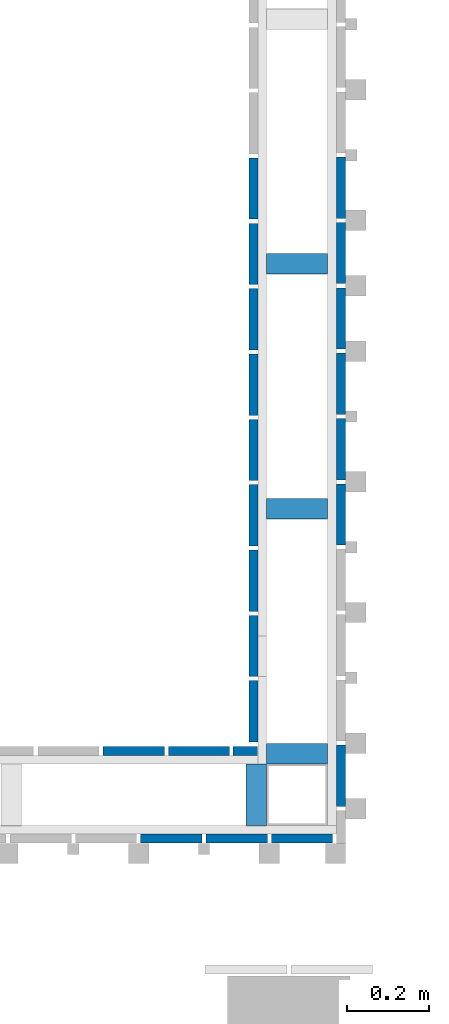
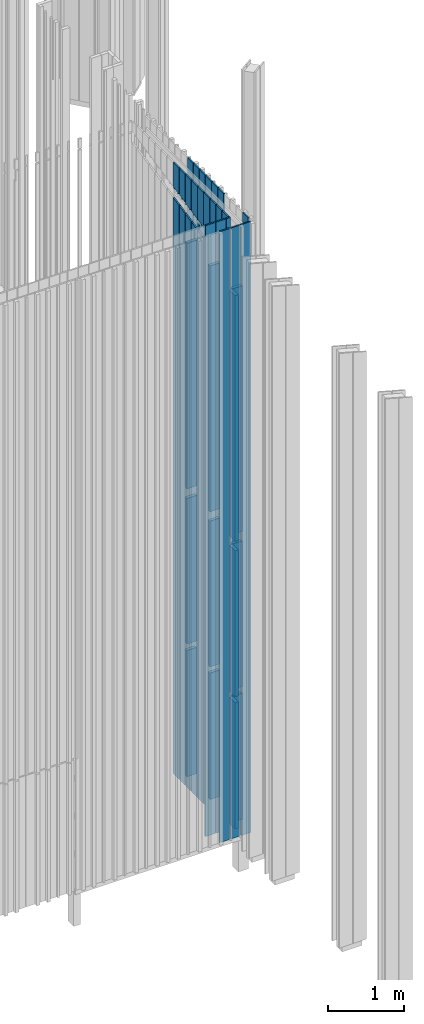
# One storey, part 163 of 390: 34 walls.
"""IFC2X3 building model written with IfcOpenShell, lengths in millimetres."""

from ifc_helpers import new_model, entity, si_unit, converted_unit, derived_unit, money_unit, direction, frame, origin_with_axes, place, context, subcontext, project, spatial, faceted_brep, material, material_list, type_object, element, save


model = new_model("IFC2X3")

# Units and contexts
model_context = context("Model", 3, precision=1e-05, world=origin_with_axes(), true_north=direction((0.0, 1.0)))
body_context = subcontext(model_context, "Body", "Model", "MODEL_VIEW")
ifc_project = project(units=[si_unit("LENGTHUNIT", "METRE", prefix="MILLI"), si_unit("AREAUNIT", "SQUARE_METRE"), si_unit("VOLUMEUNIT", "CUBIC_METRE"), converted_unit("PLANEANGLEUNIT", "DEGREE", entity("IfcPlaneAngleMeasure", 0.0174532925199), si_unit("PLANEANGLEUNIT", "RADIAN"), dimensions=[0, 0, 0, 0, 0, 0, 0]), si_unit("SOLIDANGLEUNIT", "STERADIAN"), money_unit("EUR"), converted_unit("TIMEUNIT", "Year", entity("IfcTimeMeasure", 31556926.0), si_unit("TIMEUNIT", "SECOND"), dimensions=[0, 0, 1, 0, 0, 0, 0]), si_unit("MASSUNIT", "GRAM", prefix="KILO"), si_unit("THERMODYNAMICTEMPERATUREUNIT", "DEGREE_CELSIUS"), si_unit("LUMINOUSINTENSITYUNIT", "LUMEN"), si_unit("ENERGYUNIT", "JOULE", prefix="MEGA"), derived_unit("THERMALCONDUCTANCEUNIT", [(si_unit("POWERUNIT", "WATT"), 1), (si_unit("LENGTHUNIT", "METRE"), -1), (si_unit("THERMODYNAMICTEMPERATUREUNIT", "KELVIN"), -1)]), derived_unit("SPECIFICHEATCAPACITYUNIT", [(si_unit("ENERGYUNIT", "JOULE"), 1), (si_unit("MASSUNIT", "GRAM", prefix="KILO"), -1), (si_unit("THERMODYNAMICTEMPERATUREUNIT", "KELVIN"), -1)]), derived_unit("MASSDENSITYUNIT", [(si_unit("MASSUNIT", "GRAM", prefix="KILO"), 1), (si_unit("VOLUMEUNIT", "CUBIC_METRE"), -1)])], contexts=[model_context])

# Site, building, storey
site_placement = place(None, origin_with_axes())
site = spatial("IfcSite", under=ifc_project, at=site_placement, Name="Site", CompositionType="ELEMENT")
building_placement = place(site_placement, origin_with_axes())
building = spatial("IfcBuilding", under=site, at=building_placement, Name="Building", CompositionType="ELEMENT")
storey_placement = place(building_placement, origin_with_axes())
storey = spatial("IfcBuildingStorey", under=building, at=storey_placement, Name="1 korrus", CompositionType="ELEMENT", Elevation=0.0)

# Walls
ifc_material = material(Name="Site specified")
ifc_material_list = material_list([ifc_material, ifc_material])
wall_type = type_object("IfcWallType", Name="Puitfassaadi ribistik", PredefinedType="NOTDEFINED")
wall_1_placement = place(storey_placement, frame((139538.000037, 43283.0000099, 100.000000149), z_axis=(0.0, 0.0, 1.0), x_axis=(0.0, 1.0, 0.0)))
element("IfcWall", 1, at=wall_1_placement, inside=storey, type_object=wall_type, material=ifc_material_list, Name="Site specified", context=body_context, shape_type="Brep", body=[
    faceted_brep([(31.595682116, -11.0000000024, 9199.24028983), (31.5956434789, -11.0000000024, 9177.77131911), (41.3771184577, -11.0000000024, 9179.85044085), (41.3771581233, -11.0000000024, 9201.31940673), (75.0, -11.0000000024, 9208.4661624), (75.0, -11.0000000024, 9764.99999985), (-75.0, -11.0000000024, 9764.99999985), (-75.0, -11.0000000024, 9176.58267815), (-71.1098159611, -11.0000000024, 9177.40956229), (-71.109843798, -11.0000000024, 9155.94054076), (-61.3283688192, -11.0000000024, 9158.01966251), (-61.3283399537, -11.0000000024, 9179.4886792), (31.5956821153, 11.0000000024, 9199.24028983), (31.5956434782, 11.0000000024, 9177.77131911), (41.377118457, 11.0000000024, 9179.85044085), (41.3771581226, 11.0000000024, 9201.31940673), (75.0, 11.0000000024, 9208.4661624), (75.0, 11.0000000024, 9764.99999985), (-75.0, 11.0000000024, 9764.99999985), (-75.0, 11.0000000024, 9176.58267815), (-71.1098159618, 11.0000000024, 9177.40956229), (-71.1098437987, 11.0000000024, 9155.94054076), (-61.3283688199, 11.0000000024, 9158.01966251), (-61.3283399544, 11.0000000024, 9179.4886792)], [[[0, 1, 2, 3, 4, 5, 6, 7, 8, 9, 10, 11]], [[12, 13, 1, 0]], [[13, 14, 2, 1]], [[3, 2, 14, 15]], [[15, 16, 4, 3]], [[5, 4, 16, 17]], [[17, 18, 6, 5]], [[18, 19, 7, 6]], [[20, 8, 7, 19]], [[20, 21, 9, 8]], [[21, 22, 10, 9]], [[11, 10, 22, 23]], [[12, 0, 11, 23]], [[15, 14, 13, 12, 23, 22, 21, 20, 19, 18, 17, 16]]]),
    faceted_brep([(75.0, 11.0000000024, 0.0), (75.0, 11.0000000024, 9033.64611698), (75.0, -11.0000000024, 9033.64611698), (75.0, -11.0000000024, 0.0), (-75.0, 11.0000000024, 0.0), (-75.0, 11.0000000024, 9001.76255517), (-75.0, -11.0000000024, 9001.76255517), (-75.0, -11.0000000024, 0.0)], [[[0, 1, 2, 3]], [[4, 5, 1, 0]], [[5, 6, 2, 1]], [[3, 2, 6, 7]], [[0, 3, 7, 4]], [[7, 6, 5, 4]]]),
])
for number, where, z_axis, x_axis, name in (
    (2, (139752.000037, 43605.0000099, 100.000000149), (0.0, 0.0, 1.0), (0.0, 1.0, 0.0), "Site specified"),
    (3, (139752.000037, 44085.0000099, 100.000000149), (0.0, 0.0, 1.0), (0.0, 1.0, 0.0), "Site specified"),
    (4, (139752.000037, 43925.0000099, 100.000000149), (0.0, 0.0, 1.0), (0.0, 1.0, 0.0), "Site specified"),
    (5, (139752.000037, 43285.0000099, 100.000000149), (0.0, 0.0, 1.0), (0.0, 1.0, 0.0), "Site specified"),
    (6, (139752.000037, 43765.0000099, 100.000000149), (0.0, 0.0, 1.0), (0.0, 1.0, 0.0), "Site specified"),
    (7, (139752.000037, 43445.0000099, 100.000000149), (0.0, 0.0, 1.0), (0.0, 1.0, 0.0), "Site specified"),
    (8, (139752.000037, 42645.0000099, 100.000000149), (0.0, 0.0, 1.0), (0.0, 1.0, 0.0), "Site specified"),
):
    element("IfcWall", number, at=place(storey_placement, frame(where, z_axis=z_axis, x_axis=x_axis)), inside=storey, type_object=wall_type, material=ifc_material, Name=name, context=body_context, shape_type="Brep", body=[
        faceted_brep([(75.0, -11.0000000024, 9764.99999985), (-75.0, -11.0000000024, 9764.99999985), (-75.0, -11.0000000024, 0.0), (75.0, -11.0000000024, 0.0), (75.0, 11.0000000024, 9764.99999985), (-75.0, 11.0000000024, 9764.99999985), (-75.0, 11.0000000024, 0.0), (75.0, 11.0000000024, 0.0)], [[[0, 1, 2, 3]], [[4, 5, 1, 0]], [[1, 5, 6, 2]], [[7, 3, 2, 6]], [[4, 0, 3, 7]], [[5, 4, 7, 6]]]),
    ])
wall_2_placement = place(storey_placement, frame((139538.000037, 44083.0000099, 100.000000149), z_axis=(0.0, 0.0, 1.0), x_axis=(0.0, 1.0, 0.0)))
element("IfcWall", 9, at=wall_2_placement, inside=storey, type_object=wall_type, material=ifc_material_list, Name="Site specified", context=body_context, shape_type="Brep", body=[
    faceted_brep([(53.2396667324, -11.0000000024, 9373.88611011), (53.2395416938, -11.0000000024, 9352.41754588), (63.0210166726, -11.0000000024, 9354.49666763), (63.0211427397, -11.0000000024, 9375.96522702), (75.0, -11.0000000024, 9378.51141173), (75.0, -11.0000000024, 9764.99999985), (-75.0, -11.0000000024, 9764.99999985), (-75.0, -11.0000000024, 9346.62792748), (-49.4658313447, -11.0000000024, 9352.05538258), (-49.465945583, -11.0000000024, 9330.58676753), (-39.6844706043, -11.0000000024, 9332.66588928), (-39.6843553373, -11.0000000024, 9354.13449948), (53.2396667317, 11.0000000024, 9373.88611011), (53.2395416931, 11.0000000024, 9352.41754588), (63.0210166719, 11.0000000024, 9354.49666763), (63.021142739, 11.0000000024, 9375.96522702), (75.0, 11.0000000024, 9378.51141173), (75.0, 11.0000000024, 9764.99999985), (-75.0, 11.0000000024, 9764.99999985), (-75.0, 11.0000000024, 9346.62792748), (-49.4658313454, 11.0000000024, 9352.05538258), (-49.4659455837, 11.0000000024, 9330.58676753), (-39.684470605, 11.0000000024, 9332.66588928), (-39.684355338, 11.0000000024, 9354.13449948)], [[[0, 1, 2, 3, 4, 5, 6, 7, 8, 9, 10, 11]], [[12, 13, 1, 0]], [[13, 14, 2, 1]], [[3, 2, 14, 15]], [[15, 16, 4, 3]], [[5, 4, 16, 17]], [[17, 18, 6, 5]], [[18, 19, 7, 6]], [[20, 8, 7, 19]], [[20, 21, 9, 8]], [[21, 22, 10, 9]], [[11, 10, 22, 23]], [[12, 0, 11, 23]], [[15, 14, 13, 12, 23, 22, 21, 20, 19, 18, 17, 16]]]),
    faceted_brep([(75.0, 11.0000000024, 0.0), (75.0, 11.0000000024, 9203.69177997), (75.0, -11.0000000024, 9203.69177997), (75.0, -11.0000000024, 0.0), (-75.0, 11.0000000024, 0.0), (-75.0, 11.0000000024, 9171.80821816), (-75.0, -11.0000000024, 9171.80821816), (-75.0, -11.0000000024, 0.0)], [[[0, 1, 2, 3]], [[4, 5, 1, 0]], [[5, 6, 2, 1]], [[3, 2, 6, 7]], [[0, 3, 7, 4]], [[7, 6, 5, 4]]]),
])
wall_3_placement = place(storey_placement, frame((139538.000037, 43923.0000099, 100.000000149), z_axis=(0.0, 0.0, 1.0), x_axis=(0.0, 1.0, 0.0)))
element("IfcWall", 10, at=wall_3_placement, inside=storey, type_object=wall_type, material=ifc_material_list, Name="Site specified", context=body_context, shape_type="Brep", body=[
    faceted_brep([(7.82867057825, -11.0000000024, 9330.22465504), (7.82856714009, -11.0000000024, 9308.75598919), (17.6100421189, -11.0000000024, 9310.83511093), (17.6101465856, -11.0000000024, 9332.30377195), (75.0, -11.0000000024, 9344.50236187), (75.0, -11.0000000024, 9764.99999985), (-75.0, -11.0000000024, 9764.99999985), (-75.0, -11.0000000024, 9312.61887761), (7.82867057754, 11.0000000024, 9330.22465504), (7.82856713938, 11.0000000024, 9308.75598919), (17.6100421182, 11.0000000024, 9310.83511093), (17.6101465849, 11.0000000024, 9332.30377195), (75.0, 11.0000000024, 9344.50236187), (75.0, 11.0000000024, 9764.99999985), (-75.0, 11.0000000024, 9764.99999985), (-75.0, 11.0000000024, 9312.61887761)], [[[0, 1, 2, 3, 4, 5, 6, 7]], [[8, 9, 1, 0]], [[9, 10, 2, 1]], [[3, 2, 10, 11]], [[11, 12, 4, 3]], [[5, 4, 12, 13]], [[13, 14, 6, 5]], [[14, 15, 7, 6]], [[8, 0, 7, 15]], [[11, 10, 9, 8, 15, 14, 13, 12]]]),
    faceted_brep([(75.0, 11.0000000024, 0.0), (75.0, 11.0000000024, 9169.68264737), (75.0, -11.0000000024, 9169.68264737), (75.0, -11.0000000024, 0.0), (-75.0, 11.0000000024, 0.0), (-75.0, 11.0000000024, 9137.79908556), (-75.0, -11.0000000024, 9137.79908556), (-75.0, -11.0000000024, 0.0)], [[[0, 1, 2, 3]], [[4, 5, 1, 0]], [[5, 6, 2, 1]], [[3, 2, 6, 7]], [[0, 3, 7, 4]], [[7, 6, 5, 4]]]),
])
wall_4_placement = place(storey_placement, frame((139645.000037, 42699.0000099, 200.000000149), z_axis=(0.0, 0.0, 1.0), x_axis=(0.0, 1.0, 0.0)))
element("IfcWall", 11, at=wall_4_placement, inside=storey, type_object=wall_type, material=ifc_material, Name="Site specified", context=body_context, shape_type="Brep", body=[
    faceted_brep([(25.0, -74.9999999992, 2019.99999987), (-25.0, -74.9999999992, 2019.99999987), (-25.0, -74.9999999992, 0.0), (25.0, -74.9999999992, 0.0), (25.0, 74.9999999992, 2019.99999987), (-25.0, 74.9999999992, 2019.99999987), (-25.0, 74.9999999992, 0.0), (25.0, 74.9999999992, 0.0)], [[[0, 1, 2, 3]], [[4, 5, 1, 0]], [[1, 5, 6, 2]], [[7, 3, 2, 6]], [[4, 0, 3, 7]], [[5, 4, 7, 6]]]),
])
wall_5_placement = place(storey_placement, frame((139645.000037, 42699.0000099, 2320.00000001), z_axis=(0.0, 0.0, 1.0), x_axis=(0.0, 1.0, 0.0)))
element("IfcWall", 12, at=wall_5_placement, inside=storey, type_object=wall_type, material=ifc_material, Name="Site specified", context=body_context, shape_type="Brep", body=[
    faceted_brep([(25.0, -74.9999999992, 2330.0), (-25.0, -74.9999999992, 2330.0), (-25.0, -74.9999999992, 0.0), (25.0, -74.9999999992, 0.0), (25.0, 74.9999999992, 2330.0), (-25.0, 74.9999999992, 2330.0), (-25.0, 74.9999999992, 0.0), (25.0, 74.9999999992, 0.0)], [[[0, 1, 2, 3]], [[4, 5, 1, 0]], [[1, 5, 6, 2]], [[7, 3, 2, 6]], [[4, 0, 3, 7]], [[5, 4, 7, 6]]]),
])
wall_6_placement = place(storey_placement, frame((139645.000037, 42699.0000099, 4800.00000001), z_axis=(0.0, 0.0, 1.0), x_axis=(0.0, 1.0, 0.0)))
element("IfcWall", 13, at=wall_6_placement, inside=storey, type_object=wall_type, material=ifc_material, Name="Site specified", context=body_context, shape_type="Brep", body=[
    faceted_brep([(25.0, -74.9999999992, 3927.99999761), (-25.0, -74.9999999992, 3927.99999761), (-25.0, -74.9999999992, 0.0), (25.0, -74.9999999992, 0.0), (25.0, 74.9999999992, 3927.99999761), (-25.0, 74.9999999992, 3927.99999761), (-25.0, 74.9999999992, 0.0), (25.0, 74.9999999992, 0.0)], [[[0, 1, 2, 3]], [[4, 5, 1, 0]], [[1, 5, 6, 2]], [[7, 3, 2, 6]], [[4, 0, 3, 7]], [[5, 4, 7, 6]]]),
])
wall_7_placement = place(storey_placement, frame((139645.000037, 43299.0000099, 200.000000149), z_axis=(0.0, 0.0, 1.0), x_axis=(0.0, 1.0, 0.0)))
element("IfcWall", 14, at=wall_7_placement, inside=storey, type_object=wall_type, material=ifc_material, Name="Site specified", context=body_context, shape_type="Brep", body=[
    faceted_brep([(25.0, -74.9999999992, 2019.99999987), (-25.0, -74.9999999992, 2019.99999987), (-25.0, -74.9999999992, 0.0), (25.0, -74.9999999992, 0.0), (25.0, 74.9999999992, 2019.99999987), (-25.0, 74.9999999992, 2019.99999987), (-25.0, 74.9999999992, 0.0), (25.0, 74.9999999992, 0.0)], [[[0, 1, 2, 3]], [[4, 5, 1, 0]], [[1, 5, 6, 2]], [[7, 3, 2, 6]], [[4, 0, 3, 7]], [[5, 4, 7, 6]]]),
])
wall_8_placement = place(storey_placement, frame((139645.000037, 43299.0000099, 2320.00000001), z_axis=(0.0, 0.0, 1.0), x_axis=(0.0, 1.0, 0.0)))
element("IfcWall", 15, at=wall_8_placement, inside=storey, type_object=wall_type, material=ifc_material, Name="Site specified", context=body_context, shape_type="Brep", body=[
    faceted_brep([(25.0, -74.9999999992, 2330.0), (-25.0, -74.9999999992, 2330.0), (-25.0, -74.9999999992, 0.0), (25.0, -74.9999999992, 0.0), (25.0, 74.9999999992, 2330.0), (-25.0, 74.9999999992, 2330.0), (-25.0, 74.9999999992, 0.0), (25.0, 74.9999999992, 0.0)], [[[0, 1, 2, 3]], [[4, 5, 1, 0]], [[1, 5, 6, 2]], [[7, 3, 2, 6]], [[4, 0, 3, 7]], [[5, 4, 7, 6]]]),
])
wall_9_placement = place(storey_placement, frame((139645.000037, 43299.0000099, 4800.00000001), z_axis=(0.0, 0.0, 1.0), x_axis=(0.0, 1.0, 0.0)))
element("IfcWall", 16, at=wall_9_placement, inside=storey, type_object=wall_type, material=ifc_material, Name="Site specified", context=body_context, shape_type="Brep", body=[
    faceted_brep([(25.0, -74.9999999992, 3927.99999761), (-25.0, -74.9999999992, 3927.99999761), (-25.0, -74.9999999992, 0.0), (25.0, -74.9999999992, 0.0), (25.0, 74.9999999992, 3927.99999761), (-25.0, 74.9999999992, 3927.99999761), (-25.0, 74.9999999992, 0.0), (25.0, 74.9999999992, 0.0)], [[[0, 1, 2, 3]], [[4, 5, 1, 0]], [[1, 5, 6, 2]], [[7, 3, 2, 6]], [[4, 0, 3, 7]], [[5, 4, 7, 6]]]),
])
wall_10_placement = place(storey_placement, frame((139645.000037, 43899.0000099, 200.000000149), z_axis=(0.0, 0.0, 1.0), x_axis=(0.0, 1.0, 0.0)))
element("IfcWall", 17, at=wall_10_placement, inside=storey, type_object=wall_type, material=ifc_material, Name="Site specified", context=body_context, shape_type="Brep", body=[
    faceted_brep([(25.0, -74.9999999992, 2019.99999987), (-25.0, -74.9999999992, 2019.99999987), (-25.0, -74.9999999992, 0.0), (25.0, -74.9999999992, 0.0), (25.0, 74.9999999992, 2019.99999987), (-25.0, 74.9999999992, 2019.99999987), (-25.0, 74.9999999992, 0.0), (25.0, 74.9999999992, 0.0)], [[[0, 1, 2, 3]], [[4, 5, 1, 0]], [[1, 5, 6, 2]], [[7, 3, 2, 6]], [[4, 0, 3, 7]], [[5, 4, 7, 6]]]),
])
wall_11_placement = place(storey_placement, frame((139645.000037, 43899.0000099, 2320.00000001), z_axis=(0.0, 0.0, 1.0), x_axis=(0.0, 1.0, 0.0)))
element("IfcWall", 18, at=wall_11_placement, inside=storey, type_object=wall_type, material=ifc_material, Name="Site specified", context=body_context, shape_type="Brep", body=[
    faceted_brep([(25.0, -74.9999999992, 2330.0), (-25.0, -74.9999999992, 2330.0), (-25.0, -74.9999999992, 0.0), (25.0, -74.9999999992, 0.0), (25.0, 74.9999999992, 2330.0), (-25.0, 74.9999999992, 2330.0), (-25.0, 74.9999999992, 0.0), (25.0, 74.9999999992, 0.0)], [[[0, 1, 2, 3]], [[4, 5, 1, 0]], [[1, 5, 6, 2]], [[7, 3, 2, 6]], [[4, 0, 3, 7]], [[5, 4, 7, 6]]]),
])
wall_12_placement = place(storey_placement, frame((139645.000037, 43899.0000099, 4800.00000001), z_axis=(0.0, 0.0, 1.0), x_axis=(0.0, 1.0, 0.0)))
element("IfcWall", 19, at=wall_12_placement, inside=storey, type_object=wall_type, material=ifc_material, Name="Site specified", context=body_context, shape_type="Brep", body=[
    faceted_brep([(25.0, -74.9999999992, 3927.99999761), (-25.0, -74.9999999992, 3927.99999761), (-25.0, -74.9999999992, 0.0), (25.0, -74.9999999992, 0.0), (25.0, 74.9999999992, 3927.99999761), (-25.0, 74.9999999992, 3927.99999761), (-25.0, 74.9999999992, 0.0), (25.0, 74.9999999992, 0.0)], [[[0, 1, 2, 3]], [[4, 5, 1, 0]], [[1, 5, 6, 2]], [[7, 3, 2, 6]], [[4, 0, 3, 7]], [[5, 4, 7, 6]]]),
])
wall_13_placement = place(storey_placement, frame((139518.000037, 42706.0000102, 100.000000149), z_axis=(0.0, 0.0, 1.0), x_axis=(-1.0, 0.0, 0.0)))
element("IfcWall", 20, at=wall_13_placement, inside=storey, type_object=wall_type, material=ifc_material, Name="Site specified", context=body_context, shape_type="Brep", body=[
    faceted_brep([(29.9999999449, -11.0000000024, 9764.99999985), (-29.9999999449, -11.0000000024, 9764.99999985), (-29.9999999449, -11.0000000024, 0.0), (29.9999999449, -11.0000000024, 0.0), (29.9999999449, 11.0000000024, 9764.99999985), (-29.9999999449, 11.0000000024, 9764.99999985), (-29.9999999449, 11.0000000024, 0.0), (29.9999999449, 11.0000000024, 0.0)], [[[0, 1, 2, 3]], [[4, 5, 1, 0]], [[1, 5, 6, 2]], [[7, 3, 2, 6]], [[4, 0, 3, 7]], [[5, 4, 7, 6]]]),
])
for number, where, z_axis, x_axis, name in (
    (21, (139245.000037, 42706.0000102, 100.000000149), (0.0, 0.0, 1.0), (-1.0, 0.0, 0.0), "Site specified"),
    (22, (139405.000037, 42706.0000102, 100.000000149), (0.0, 0.0, 1.0), (-1.0, 0.0, 0.0), "Site specified"),
):
    element("IfcWall", number, at=place(storey_placement, frame(where, z_axis=z_axis, x_axis=x_axis)), inside=storey, type_object=wall_type, material=ifc_material, Name=name, context=body_context, shape_type="Brep", body=[
        faceted_brep([(75.0, -11.0000000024, 9764.99999985), (-75.0, -11.0000000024, 9764.99999985), (-75.0, -11.0000000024, 0.0), (75.0, -11.0000000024, 0.0), (75.0, 11.0000000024, 9764.99999985), (-75.0, 11.0000000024, 9764.99999985), (-75.0, 11.0000000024, 0.0), (75.0, 11.0000000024, 0.0)], [[[0, 1, 2, 3]], [[4, 5, 1, 0]], [[1, 5, 6, 2]], [[7, 3, 2, 6]], [[4, 0, 3, 7]], [[5, 4, 7, 6]]]),
    ])
wall_14_placement = place(storey_placement, frame((139538.000037, 42963.0000099, 100.000000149), z_axis=(0.0, 0.0, 1.0), x_axis=(0.0, 1.0, 0.0)))
element("IfcWall", 23, at=wall_14_placement, inside=storey, type_object=wall_type, material=ifc_material_list, Name="Site specified", context=body_context, shape_type="Brep", body=[
    faceted_brep([(43.4791878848, -11.0000000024, 9133.74810722), (43.4791816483, -11.0000000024, 9112.27898407), (53.2606566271, -11.0000000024, 9114.35810581), (53.2606638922, -11.0000000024, 9135.82722413), (75.0, -11.0000000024, 9140.44806266), (75.0, -11.0000000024, 9764.99999985), (-75.0, -11.0000000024, 9764.99999985), (-74.9998110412, -11.0000000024, 9087.09543549), (-49.4448306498, -11.0000000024, 9092.52732747), (-49.4448341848, -11.0000000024, 9113.99649659), (43.4791878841, 11.0000000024, 9133.74810722), (43.4791816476, 11.0000000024, 9112.27898407), (53.2606566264, 11.0000000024, 9114.35810581), (53.2606638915, 11.0000000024, 9135.82722413), (75.0, 11.0000000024, 9140.44806266), (75.0, 11.0000000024, 9764.99999985), (-75.0, 11.0000000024, 9764.99999985), (-74.9998110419, 11.0000000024, 9087.09543549), (-49.4448306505, 11.0000000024, 9092.52732747), (-49.4448341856, 11.0000000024, 9113.99649659)], [[[0, 1, 2, 3, 4, 5, 6, 7, 8, 9]], [[10, 11, 1, 0]], [[11, 12, 2, 1]], [[3, 2, 12, 13]], [[13, 14, 4, 3]], [[5, 4, 14, 15]], [[15, 16, 6, 5]], [[16, 17, 7, 6]], [[17, 18, 8, 7]], [[9, 8, 18, 19]], [[10, 0, 9, 19]], [[13, 12, 11, 10, 19, 18, 17, 16, 15, 14]]]),
    faceted_brep([(75.0, 11.0000000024, 0.0), (75.0, 11.0000000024, 8965.62785178), (75.0, -11.0000000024, 8965.62785178), (75.0, -11.0000000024, 0.0), (25.0000927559, 11.0000000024, 8777.99999748), (25.0000927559, 11.0000000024, 8955.00001756), (-75.0, 11.0000000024, 0.0), (-74.9999072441, 11.0000000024, 8777.99999748), (25.0000927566, -11.0000000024, 8955.00001756), (25.0000927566, -11.0000000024, 8777.99999748), (-74.9999072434, -11.0000000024, 8777.99999748), (-75.0, -11.0000000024, 0.0)], [[[0, 1, 2, 3]], [[4, 5, 1, 0, 6, 7]], [[5, 8, 2, 1]], [[3, 2, 8, 9, 10, 11]], [[0, 3, 11, 6]], [[9, 8, 5, 4]], [[11, 10, 7, 6]], [[10, 9, 4, 7]]]),
])
wall_15_placement = place(storey_placement, frame((139538.000037, 43123.0000099, 100.000000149), z_axis=(0.0, 0.0, 1.0), x_axis=(0.0, 1.0, 0.0)))
element("IfcWall", 24, at=wall_15_placement, inside=storey, type_object=wall_type, material=ifc_material_list, Name="Site specified", context=body_context, shape_type="Brep", body=[
    faceted_brep([(-13.8153140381, -11.0000000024, 9155.57883475), (-13.8153310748, -11.0000000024, 9134.10976241), (-4.03385609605, -11.0000000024, 9136.18888416), (-4.03383803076, -11.0000000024, 9157.65795166), (75.0, -11.0000000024, 9174.45711253), (75.0, -11.0000000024, 9764.99999985), (-75.0, -11.0000000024, 9764.99999985), (-75.0, -11.0000000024, 9142.57362828), (-13.8153140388, 11.0000000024, 9155.57883475), (-13.8153310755, 11.0000000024, 9134.10976241), (-4.03385609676, 11.0000000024, 9136.18888416), (-4.03383803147, 11.0000000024, 9157.65795166), (75.0, 11.0000000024, 9174.45711253), (75.0, 11.0000000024, 9764.99999985), (-75.0, 11.0000000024, 9764.99999985), (-75.0, 11.0000000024, 9142.57362828)], [[[0, 1, 2, 3, 4, 5, 6, 7]], [[8, 9, 1, 0]], [[9, 10, 2, 1]], [[3, 2, 10, 11]], [[11, 12, 4, 3]], [[5, 4, 12, 13]], [[13, 14, 6, 5]], [[14, 15, 7, 6]], [[8, 0, 7, 15]], [[11, 10, 9, 8, 15, 14, 13, 12]]]),
    faceted_brep([(75.0, 11.0000000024, 0.0), (75.0, 11.0000000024, 8999.63698438), (75.0, -11.0000000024, 8999.63698438), (75.0, -11.0000000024, 0.0), (-75.0, 11.0000000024, 0.0), (-75.0, 11.0000000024, 8967.75342257), (-75.0, -11.0000000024, 8967.75342257), (-75.0, -11.0000000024, 0.0)], [[[0, 1, 2, 3]], [[4, 5, 1, 0]], [[5, 6, 2, 1]], [[3, 2, 6, 7]], [[0, 3, 7, 4]], [[7, 6, 5, 4]]]),
])
wall_16_placement = place(storey_placement, frame((139538.000037, 43603.0000099, 100.000000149), z_axis=(0.0, 0.0, 1.0), x_axis=(0.0, 1.0, 0.0)))
element("IfcWall", 25, at=wall_16_placement, inside=storey, type_object=wall_type, material=ifc_material_list, Name="Site specified", context=body_context, shape_type="Brep", body=[
    faceted_brep([(19.7121763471, -11.0000000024, 9264.73247243), (19.7121053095, -11.0000000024, 9243.26365415), (29.4935802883, -11.0000000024, 9245.34277589), (29.4936523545, -11.0000000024, 9266.81158934), (75.0, -11.0000000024, 9276.48426213), (75.0, -11.0000000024, 9764.99999985), (-75.0, -11.0000000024, 9764.99999985), (-75.0, -11.0000000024, 9223.13192572), (-73.2119069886, -11.0000000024, 9223.51199755), (-73.2118457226, -11.0000000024, 9244.98086181), (19.7121763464, 11.0000000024, 9264.73247243), (19.7121053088, 11.0000000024, 9243.26365415), (29.4935802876, 11.0000000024, 9245.34277589), (29.4936523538, 11.0000000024, 9266.81158934), (75.0, 11.0000000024, 9276.48426213), (75.0, 11.0000000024, 9764.99999985), (-75.0, 11.0000000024, 9764.99999985), (-75.0, 11.0000000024, 9223.13192572), (-73.2119069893, 11.0000000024, 9223.51199755), (-73.2118457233, 11.0000000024, 9244.98086181)], [[[0, 1, 2, 3, 4, 5, 6, 7, 8, 9]], [[10, 11, 1, 0]], [[11, 12, 2, 1]], [[3, 2, 12, 13]], [[13, 14, 4, 3]], [[5, 4, 14, 15]], [[15, 16, 6, 5]], [[16, 17, 7, 6]], [[17, 18, 8, 7]], [[9, 8, 18, 19]], [[10, 0, 9, 19]], [[13, 12, 11, 10, 19, 18, 17, 16, 15, 14]]]),
    faceted_brep([(75.0, 11.0000000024, 0.0), (75.0, 11.0000000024, 9101.66438218), (75.0, -11.0000000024, 9101.66438218), (75.0, -11.0000000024, 0.0), (-75.0, 11.0000000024, 0.0), (-75.0, 11.0000000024, 9069.78082036), (-75.0, -11.0000000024, 9069.78082036), (-75.0, -11.0000000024, 0.0)], [[[0, 1, 2, 3]], [[4, 5, 1, 0]], [[5, 6, 2, 1]], [[3, 2, 6, 7]], [[0, 3, 7, 4]], [[7, 6, 5, 4]]]),
])
wall_17_placement = place(storey_placement, frame((139538.000037, 43763.0000099, 100.000000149), z_axis=(0.0, 0.0, 1.0), x_axis=(0.0, 1.0, 0.0)))
element("IfcWall", 26, at=wall_17_placement, inside=storey, type_object=wall_type, material=ifc_material_list, Name="Site specified", context=body_context, shape_type="Brep", body=[
    faceted_brep([(65.1231725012, -11.0000000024, 9308.3939275), (65.1230798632, -11.0000000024, 9286.92521084), (74.904554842, -11.0000000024, 9289.00433259), (74.9046485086, -11.0000000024, 9310.47304441), (75.0, -11.0000000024, 9310.493312), (75.0, -11.0000000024, 9764.99999985), (-75.0, -11.0000000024, 9764.99999985), (-75.0, -11.0000000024, 9278.60982775), (-37.5823255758, -11.0000000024, 9286.56319997), (-37.5824074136, -11.0000000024, 9265.09443249), (-27.8009324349, -11.0000000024, 9267.17355424), (-27.8008495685, -11.0000000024, 9288.64231688), (65.1231725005, 11.0000000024, 9308.3939275), (65.1230798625, 11.0000000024, 9286.92521084), (74.9045548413, 11.0000000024, 9289.00433259), (74.9046485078, 11.0000000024, 9310.47304441), (75.0, 11.0000000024, 9310.493312), (75.0, 11.0000000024, 9764.99999985), (-75.0, 11.0000000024, 9764.99999985), (-75.0, 11.0000000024, 9278.60982775), (-37.5823255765, 11.0000000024, 9286.56319997), (-37.5824074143, 11.0000000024, 9265.09443249), (-27.8009324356, 11.0000000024, 9267.17355424), (-27.8008495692, 11.0000000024, 9288.64231688)], [[[0, 1, 2, 3, 4, 5, 6, 7, 8, 9, 10, 11]], [[12, 13, 1, 0]], [[13, 14, 2, 1]], [[3, 2, 14, 15]], [[15, 16, 4, 3]], [[5, 4, 16, 17]], [[17, 18, 6, 5]], [[18, 19, 7, 6]], [[20, 8, 7, 19]], [[20, 21, 9, 8]], [[21, 22, 10, 9]], [[11, 10, 22, 23]], [[12, 0, 11, 23]], [[15, 14, 13, 12, 23, 22, 21, 20, 19, 18, 17, 16]]]),
    faceted_brep([(75.0, 11.0000000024, 0.0), (75.0, 11.0000000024, 9135.67351477), (75.0, -11.0000000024, 9135.67351477), (75.0, -11.0000000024, 0.0), (-75.0, 11.0000000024, 0.0), (-75.0, 11.0000000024, 9103.78995296), (-75.0, -11.0000000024, 9103.78995296), (-75.0, -11.0000000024, 0.0)], [[[0, 1, 2, 3]], [[4, 5, 1, 0]], [[5, 6, 2, 1]], [[3, 2, 6, 7]], [[0, 3, 7, 4]], [[7, 6, 5, 4]]]),
])
wall_18_placement = place(storey_placement, frame((139538.000037, 43443.0000099, 100.000000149), z_axis=(0.0, 0.0, 1.0), x_axis=(0.0, 1.0, 0.0)))
element("IfcWall", 27, at=wall_18_placement, inside=storey, type_object=wall_type, material=ifc_material_list, Name="Site specified", context=body_context, shape_type="Brep", body=[
    faceted_brep([(-25.698819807, -11.0000000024, 9221.07101736), (-25.6988692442, -11.0000000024, 9199.60209745), (-15.9173942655, -11.0000000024, 9201.6812192), (-15.9173437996, -11.0000000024, 9223.15013427), (75.0, -11.0000000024, 9242.47521226), (75.0, -11.0000000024, 9764.99999985), (-75.0, -11.0000000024, 9764.99999985), (-75.0, -11.0000000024, 9210.59172801), (-25.6988198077, 11.0000000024, 9221.07101736), (-25.6988692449, 11.0000000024, 9199.60209745), (-15.9173942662, 11.0000000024, 9201.6812192), (-15.9173438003, 11.0000000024, 9223.15013427), (75.0, 11.0000000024, 9242.47521226), (75.0, 11.0000000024, 9764.99999985), (-75.0, 11.0000000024, 9764.99999985), (-75.0, 11.0000000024, 9210.59172801)], [[[0, 1, 2, 3, 4, 5, 6, 7]], [[8, 9, 1, 0]], [[9, 10, 2, 1]], [[3, 2, 10, 11]], [[11, 12, 4, 3]], [[5, 4, 12, 13]], [[13, 14, 6, 5]], [[14, 15, 7, 6]], [[8, 0, 7, 15]], [[11, 10, 9, 8, 15, 14, 13, 12]]]),
    faceted_brep([(75.0, 11.0000000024, 0.0), (75.0, 11.0000000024, 9067.65524958), (75.0, -11.0000000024, 9067.65524958), (75.0, -11.0000000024, 0.0), (-75.0, 11.0000000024, 0.0), (-75.0, 11.0000000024, 9035.77168776), (-75.0, -11.0000000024, 9035.77168776), (-75.0, -11.0000000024, 0.0)], [[[0, 1, 2, 3]], [[4, 5, 1, 0]], [[5, 6, 2, 1]], [[3, 2, 6, 7]], [[0, 3, 7, 4]], [[7, 6, 5, 4]]]),
])
wall_19_placement = place(storey_placement, frame((139538.000037, 42803.0000099, 100.000000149), z_axis=(0.0, 0.0, 1.0), x_axis=(0.0, 1.0, 0.0)))
element("IfcWall", 28, at=wall_19_placement, inside=storey, type_object=wall_type, material=ifc_material, Name="Site specified", context=body_context, shape_type="Brep", body=[
    faceted_brep([(75.0, -11.0000000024, 9764.99999985), (-75.0, -11.0000000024, 9764.99999985), (-75.0, -11.0000000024, 0.0), (75.0, -11.0000000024, 0.0), (75.0, 11.0000000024, 9764.99999985), (-75.0, 11.0000000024, 9764.99999985), (-75.0, 11.0000000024, 0.0), (75.0, 11.0000000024, 0.0)], [[[0, 1, 2, 3]], [[4, 5, 1, 0]], [[1, 5, 6, 2]], [[7, 3, 2, 6]], [[4, 0, 3, 7]], [[5, 4, 7, 6]]]),
])
wall_20_placement = place(storey_placement, frame((139545.000037, 42599.0000099, 4800.00000001), z_axis=(0.0, 0.0, 1.0), x_axis=(-1.0, 0.0, 0.0)))
element("IfcWall", 29, at=wall_20_placement, inside=storey, type_object=wall_type, material=ifc_material, Name="Site specified", context=body_context, shape_type="Brep", body=[
    faceted_brep([(-24.9999999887, -74.9999999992, 15.0000030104), (-24.999999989, -64.5000003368, 15.0000030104), (-24.999999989, -64.5000003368, 110.00000301), (-24.9999999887, -74.9999999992, 110.00000301), (-25.0, -74.9999999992, 3927.99999761), (-25.0, 74.9999999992, 3927.99999761), (-25.0, 74.9999999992, 0.0), (-25.0, -74.9999999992, 0.0), (-3.99999998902, -64.5000003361, 15.0000030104), (-3.99999998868, -74.9999999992, 15.0000030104), (-3.99999998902, -64.5000003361, 110.00000301), (-3.99999998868, -74.9999999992, 110.00000301), (25.0, -74.9999999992, 0.0), (25.0, -74.9999999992, 3927.99999761), (25.0, 74.9999999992, 3927.99999761), (25.0, 74.9999999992, 0.0)], [[[0, 1, 2, 3, 4, 5, 6, 7]], [[8, 1, 0, 9]], [[10, 2, 1, 8]], [[10, 11, 3, 2]], [[11, 9, 0, 7, 12, 13, 4, 3]], [[14, 5, 4, 13]], [[5, 14, 15, 6]], [[15, 12, 7, 6]], [[8, 9, 11, 10]], [[14, 13, 12, 15]]]),
])
wall_21_placement = place(storey_placement, frame((139545.000037, 42599.0000099, 2320.00000001), z_axis=(0.0, 0.0, 1.0), x_axis=(-1.0, 0.0, 0.0)))
element("IfcWall", 30, at=wall_21_placement, inside=storey, type_object=wall_type, material=ifc_material, Name="Site specified", context=body_context, shape_type="Brep", body=[
    faceted_brep([(25.0, -74.9999999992, 2330.0), (-25.0, -74.9999999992, 2330.0), (-25.0, -74.9999999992, 0.0), (25.0, -74.9999999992, 0.0), (25.0, 74.9999999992, 2330.0), (-25.0, 74.9999999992, 2330.0), (-25.0, 74.9999999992, 0.0), (25.0, 74.9999999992, 0.0)], [[[0, 1, 2, 3]], [[4, 5, 1, 0]], [[1, 5, 6, 2]], [[7, 3, 2, 6]], [[4, 0, 3, 7]], [[5, 4, 7, 6]]]),
])
wall_22_placement = place(storey_placement, frame((139545.000037, 42599.0000099, 200.000000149), z_axis=(0.0, 0.0, 1.0), x_axis=(-1.0, 0.0, 0.0)))
element("IfcWall", 31, at=wall_22_placement, inside=storey, type_object=wall_type, material=ifc_material, Name="Site specified", context=body_context, shape_type="Brep", body=[
    faceted_brep([(25.0, -74.9999999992, 2019.99999987), (-25.0, -74.9999999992, 2019.99999987), (-25.0, -74.9999999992, 0.0), (25.0, -74.9999999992, 0.0), (25.0, 74.9999999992, 2019.99999987), (-25.0, 74.9999999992, 2019.99999987), (-25.0, 74.9999999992, 0.0), (25.0, 74.9999999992, 0.0)], [[[0, 1, 2, 3]], [[4, 5, 1, 0]], [[1, 5, 6, 2]], [[7, 3, 2, 6]], [[4, 0, 3, 7]], [[5, 4, 7, 6]]]),
])
for number, where, z_axis, x_axis, name in (
    (32, (139337.000037, 42491.9999949, 100.000000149), (0.0, 0.0, 1.0), (-1.0, 0.0, 0.0), "Site specified"),
    (33, (139497.000037, 42492.0000024, 100.000000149), (0.0, 0.0, 1.0), (-1.0, 0.0, 0.0), "Site specified"),
    (34, (139657.000037, 42492.0000024, 100.000000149), (0.0, 0.0, 1.0), (-1.0, 0.0, 0.0), "Site specified"),
):
    element("IfcWall", number, at=place(storey_placement, frame(where, z_axis=z_axis, x_axis=x_axis)), inside=storey, type_object=wall_type, material=ifc_material, Name=name, context=body_context, shape_type="Brep", body=[
        faceted_brep([(75.0, -11.0000000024, 9764.99999985), (-75.0, -11.0000000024, 9764.99999985), (-75.0, -11.0000000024, 0.0), (75.0, -11.0000000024, 0.0), (75.0, 11.0000000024, 9764.99999985), (-75.0, 11.0000000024, 9764.99999985), (-75.0, 11.0000000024, 0.0), (75.0, 11.0000000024, 0.0)], [[[0, 1, 2, 3]], [[4, 5, 1, 0]], [[1, 5, 6, 2]], [[7, 3, 2, 6]], [[4, 0, 3, 7]], [[5, 4, 7, 6]]]),
    ])

save(model, "model.ifc")
